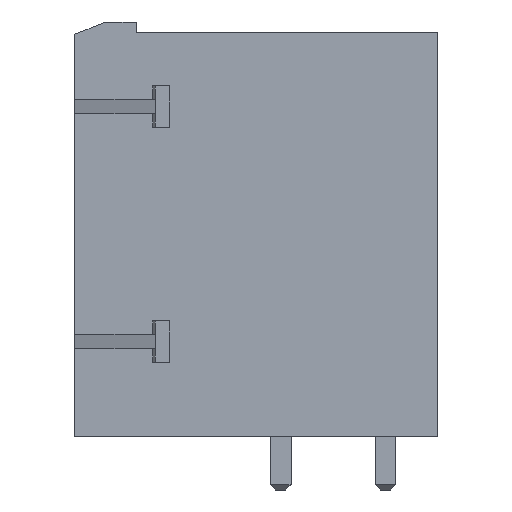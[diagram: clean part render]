
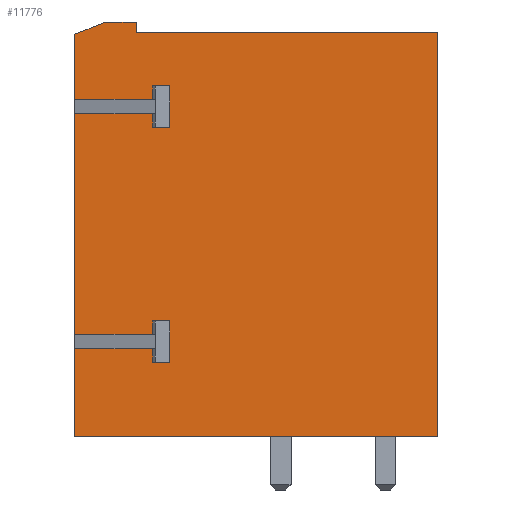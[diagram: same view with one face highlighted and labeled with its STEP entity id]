
A CAD part, left-side view. The second image highlights one B-rep face of the part: STEP entity #11776.
In plain terms, the highlighted planar face has unit normal (-1, 0, 0).
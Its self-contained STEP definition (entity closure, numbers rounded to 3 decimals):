
#17=DIRECTION('',(0.,0.,1.));
#18=VECTOR('',#17,19.6);
#19=CARTESIAN_POINT('',(25.807,10.63,-20.1));
#20=LINE('',#19,#18);
#29=DIRECTION('',(0.,0.,1.));
#30=VECTOR('',#29,0.5);
#31=CARTESIAN_POINT('',(25.807,25.23,-0.5));
#32=LINE('',#31,#30);
#45=DIRECTION('',(0.,1.,0.));
#46=VECTOR('',#45,1.5);
#47=CARTESIAN_POINT('',(25.807,25.23,0.));
#48=LINE('',#47,#46);
#4251=DIRECTION('',(0.,0.,-1.));
#4252=VECTOR('',#4251,0.65);
#4253=CARTESIAN_POINT('',(25.807,24.43,-4.45));
#4254=LINE('',#4253,#4252);
#4255=DIRECTION('',(0.,-1.,0.));
#4256=VECTOR('',#4255,0.7);
#4257=CARTESIAN_POINT('',(25.807,24.43,-5.1));
#4258=LINE('',#4257,#4256);
#4259=DIRECTION('',(0.,0.,-1.));
#4260=VECTOR('',#4259,0.65);
#4261=CARTESIAN_POINT('',(25.807,24.43,-3.1));
#4262=LINE('',#4261,#4260);
#4263=DIRECTION('',(0.,1.,0.));
#4264=VECTOR('',#4263,3.8);
#4265=CARTESIAN_POINT('',(25.807,24.43,-3.75));
#4266=LINE('',#4265,#4264);
#4267=DIRECTION('',(0.,0.,1.));
#4268=VECTOR('',#4267,3.15);
#4269=CARTESIAN_POINT('',(25.807,28.23,-3.75));
#4270=LINE('',#4269,#4268);
#4271=DIRECTION('',(0.,-0.928,0.371));
#4272=VECTOR('',#4271,1.616);
#4273=CARTESIAN_POINT('',(25.807,28.23,-0.6));
#4274=LINE('',#4273,#4272);
#4275=DIRECTION('',(0.,-1.,0.));
#4276=VECTOR('',#4275,14.6);
#4277=CARTESIAN_POINT('',(25.807,25.23,-0.5));
#4278=LINE('',#4277,#4276);
#4279=DIRECTION('',(0.,1.,0.));
#4280=VECTOR('',#4279,17.6);
#4281=CARTESIAN_POINT('',(25.807,10.63,-20.1));
#4282=LINE('',#4281,#4280);
#4283=DIRECTION('',(0.,0.,1.));
#4284=VECTOR('',#4283,4.25);
#4285=CARTESIAN_POINT('',(25.807,28.23,-20.1));
#4286=LINE('',#4285,#4284);
#4287=DIRECTION('',(0.,-1.,0.));
#4288=VECTOR('',#4287,3.8);
#4289=CARTESIAN_POINT('',(25.807,28.23,-15.85));
#4290=LINE('',#4289,#4288);
#4291=DIRECTION('',(0.,-1.,0.));
#4292=VECTOR('',#4291,0.7);
#4293=CARTESIAN_POINT('',(25.807,24.43,-16.5));
#4294=LINE('',#4293,#4292);
#4295=DIRECTION('',(0.,0.,1.));
#4296=VECTOR('',#4295,2.);
#4297=CARTESIAN_POINT('',(25.807,23.73,-16.5));
#4298=LINE('',#4297,#4296);
#4299=DIRECTION('',(0.,0.,1.));
#4300=VECTOR('',#4299,10.7);
#4301=CARTESIAN_POINT('',(25.807,28.23,-15.15));
#4302=LINE('',#4301,#4300);
#4311=DIRECTION('',(0.,1.,0.));
#4312=VECTOR('',#4311,3.8);
#4313=CARTESIAN_POINT('',(25.807,24.43,-4.45));
#4314=LINE('',#4313,#4312);
#4335=DIRECTION('',(0.,-1.,0.));
#4336=VECTOR('',#4335,0.7);
#4337=CARTESIAN_POINT('',(25.807,24.43,-3.1));
#4338=LINE('',#4337,#4336);
#4343=DIRECTION('',(0.,0.,-1.));
#4344=VECTOR('',#4343,2.);
#4345=CARTESIAN_POINT('',(25.807,23.73,-3.1));
#4346=LINE('',#4345,#4344);
#4399=DIRECTION('',(0.,0.,1.));
#4400=VECTOR('',#4399,0.65);
#4401=CARTESIAN_POINT('',(25.807,24.43,-15.15));
#4402=LINE('',#4401,#4400);
#4403=DIRECTION('',(0.,-1.,0.));
#4404=VECTOR('',#4403,3.8);
#4405=CARTESIAN_POINT('',(25.807,28.23,-15.15));
#4406=LINE('',#4405,#4404);
#4415=DIRECTION('',(0.,-1.,0.));
#4416=VECTOR('',#4415,0.7);
#4417=CARTESIAN_POINT('',(25.807,24.43,-14.5));
#4418=LINE('',#4417,#4416);
#4443=DIRECTION('',(0.,0.,1.));
#4444=VECTOR('',#4443,0.65);
#4445=CARTESIAN_POINT('',(25.807,24.43,-16.5));
#4446=LINE('',#4445,#4444);
#4539=CARTESIAN_POINT('',(25.807,10.63,-0.5));
#4541=VERTEX_POINT('',#4539);
#4553=CARTESIAN_POINT('',(25.807,10.63,-20.1));
#4554=VERTEX_POINT('',#4553);
#4556=CARTESIAN_POINT('',(25.807,25.23,-0.5));
#4558=VERTEX_POINT('',#4556);
#4560=CARTESIAN_POINT('',(25.807,25.23,0.));
#4562=VERTEX_POINT('',#4560);
#4571=CARTESIAN_POINT('',(25.807,26.73,0.));
#4572=VERTEX_POINT('',#4571);
#4613=CARTESIAN_POINT('',(25.807,28.23,-20.1));
#4615=VERTEX_POINT('',#4613);
#4665=CARTESIAN_POINT('',(25.807,28.23,-0.6));
#4666=VERTEX_POINT('',#4665);
#4667=CARTESIAN_POINT('',(25.807,28.23,-3.75));
#4668=VERTEX_POINT('',#4667);
#4669=CARTESIAN_POINT('',(25.807,28.23,-4.45));
#4670=VERTEX_POINT('',#4669);
#4671=CARTESIAN_POINT('',(25.807,28.23,-15.15));
#4672=VERTEX_POINT('',#4671);
#4673=CARTESIAN_POINT('',(25.807,28.23,-15.85));
#4674=VERTEX_POINT('',#4673);
#5478=CARTESIAN_POINT('',(25.807,24.43,-4.45));
#5479=VERTEX_POINT('',#5478);
#5480=CARTESIAN_POINT('',(25.807,24.43,-5.1));
#5481=VERTEX_POINT('',#5480);
#5482=CARTESIAN_POINT('',(25.807,23.73,-5.1));
#5483=VERTEX_POINT('',#5482);
#5484=CARTESIAN_POINT('',(25.807,23.73,-3.1));
#5485=VERTEX_POINT('',#5484);
#5486=CARTESIAN_POINT('',(25.807,24.43,-3.1));
#5487=VERTEX_POINT('',#5486);
#5488=CARTESIAN_POINT('',(25.807,24.43,-3.75));
#5489=VERTEX_POINT('',#5488);
#5490=CARTESIAN_POINT('',(25.807,24.43,-15.85));
#5491=VERTEX_POINT('',#5490);
#5492=CARTESIAN_POINT('',(25.807,24.43,-16.5));
#5493=VERTEX_POINT('',#5492);
#5494=CARTESIAN_POINT('',(25.807,23.73,-16.5));
#5495=VERTEX_POINT('',#5494);
#5496=CARTESIAN_POINT('',(25.807,23.73,-14.5));
#5497=VERTEX_POINT('',#5496);
#5498=CARTESIAN_POINT('',(25.807,24.43,-14.5));
#5499=VERTEX_POINT('',#5498);
#5500=CARTESIAN_POINT('',(25.807,24.43,-15.15));
#5501=VERTEX_POINT('',#5500);
#11732=CARTESIAN_POINT('',(25.807,28.23,0.));
#11733=DIRECTION('',(-1.,0.,0.));
#11734=DIRECTION('',(0.,-1.,0.));
#11735=AXIS2_PLACEMENT_3D('',#11732,#11733,#11734);
#11736=PLANE('',#11735);
#11738=ORIENTED_EDGE('',*,*,#11737,.F.);
#11740=ORIENTED_EDGE('',*,*,#11739,.T.);
#11742=ORIENTED_EDGE('',*,*,#11741,.T.);
#11744=ORIENTED_EDGE('',*,*,#11743,.F.);
#11746=ORIENTED_EDGE('',*,*,#11745,.F.);
#11748=ORIENTED_EDGE('',*,*,#11747,.T.);
#11750=ORIENTED_EDGE('',*,*,#11749,.T.);
#11751=ORIENTED_EDGE('',*,*,#7214,.T.);
#11752=ORIENTED_EDGE('',*,*,#11725,.T.);
#11753=ORIENTED_EDGE('',*,*,#5931,.F.);
#11754=ORIENTED_EDGE('',*,*,#5912,.F.);
#11755=ORIENTED_EDGE('',*,*,#5897,.T.);
#11756=ORIENTED_EDGE('',*,*,#5882,.F.);
#11757=ORIENTED_EDGE('',*,*,#7303,.T.);
#11758=ORIENTED_EDGE('',*,*,#7222,.T.);
#11760=ORIENTED_EDGE('',*,*,#11759,.T.);
#11762=ORIENTED_EDGE('',*,*,#11761,.F.);
#11764=ORIENTED_EDGE('',*,*,#11763,.T.);
#11766=ORIENTED_EDGE('',*,*,#11765,.T.);
#11768=ORIENTED_EDGE('',*,*,#11767,.F.);
#11770=ORIENTED_EDGE('',*,*,#11769,.F.);
#11772=ORIENTED_EDGE('',*,*,#11771,.F.);
#11773=ORIENTED_EDGE('',*,*,#7218,.T.);
#11774=EDGE_LOOP('',(#11738,#11740,#11742,#11744,#11746,#11748,#11750,#11751,
#11752,#11753,#11754,#11755,#11756,#11757,#11758,#11760,#11762,#11764,#11766,
#11768,#11770,#11772,#11773));
#11775=FACE_OUTER_BOUND('',#11774,.F.);
#11776=ADVANCED_FACE('',(#11775),#11736,.T.);
#5882=EDGE_CURVE('',#4554,#4541,#20,.T.);
#5897=EDGE_CURVE('',#4558,#4541,#4278,.T.);
#5912=EDGE_CURVE('',#4558,#4562,#32,.T.);
#5931=EDGE_CURVE('',#4562,#4572,#48,.T.);
#7214=EDGE_CURVE('',#4668,#4666,#4270,.T.);
#7218=EDGE_CURVE('',#4672,#4670,#4302,.T.);
#7222=EDGE_CURVE('',#4615,#4674,#4286,.T.);
#7303=EDGE_CURVE('',#4554,#4615,#4282,.T.);
#11725=EDGE_CURVE('',#4666,#4572,#4274,.T.);
#11737=EDGE_CURVE('',#5479,#4670,#4314,.T.);
#11739=EDGE_CURVE('',#5479,#5481,#4254,.T.);
#11741=EDGE_CURVE('',#5481,#5483,#4258,.T.);
#11743=EDGE_CURVE('',#5485,#5483,#4346,.T.);
#11745=EDGE_CURVE('',#5487,#5485,#4338,.T.);
#11747=EDGE_CURVE('',#5487,#5489,#4262,.T.);
#11749=EDGE_CURVE('',#5489,#4668,#4266,.T.);
#11759=EDGE_CURVE('',#4674,#5491,#4290,.T.);
#11761=EDGE_CURVE('',#5493,#5491,#4446,.T.);
#11763=EDGE_CURVE('',#5493,#5495,#4294,.T.);
#11765=EDGE_CURVE('',#5495,#5497,#4298,.T.);
#11767=EDGE_CURVE('',#5499,#5497,#4418,.T.);
#11769=EDGE_CURVE('',#5501,#5499,#4402,.T.);
#11771=EDGE_CURVE('',#4672,#5501,#4406,.T.);
